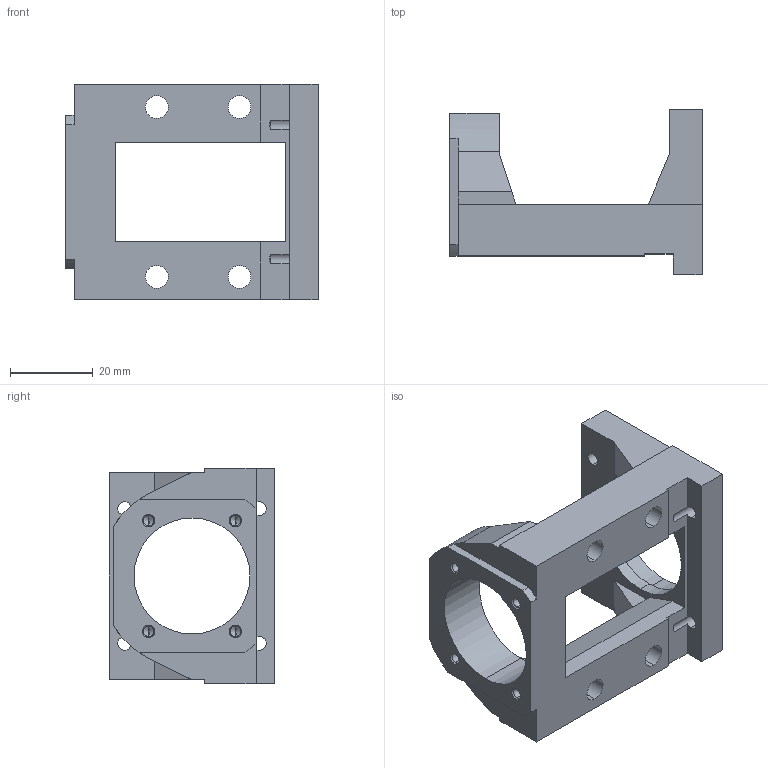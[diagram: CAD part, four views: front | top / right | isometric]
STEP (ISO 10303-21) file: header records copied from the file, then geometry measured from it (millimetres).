
FILE_DESCRIPTION (( 'STEP AP203' ), '1' );
FILE_NAME ('MBL08-B傳動座.STEP', '2017-12-28T06:05:37', ( '' ), ( '' ), 'SwSTEP 2.0', 'SolidWorks 2017', '' );
FILE_SCHEMA (( 'CONFIG_CONTROL_DESIGN' ));
Length unit declared in the file: millimetre
Products named in the file (1): MBL08-B傳動座
Bounding box: 61 x 40 x 52 mm (x, y, z)
Volume: 33439.5 mm3; surface area: 14689.8 mm2
Topology: 1 solids, 1 shells, 119 faces, 316 edges, 196 vertices
Faces by surface type: plane 43, cylinder 42, cone 34
Entity records: 3767 total; most frequent: DIRECTION 660, CARTESIAN_POINT 642, ORIENTED_EDGE 616, EDGE_CURVE 308, AXIS2_PLACEMENT_3D 234, VERTEX_POINT 196, LINE 192, VECTOR 192
